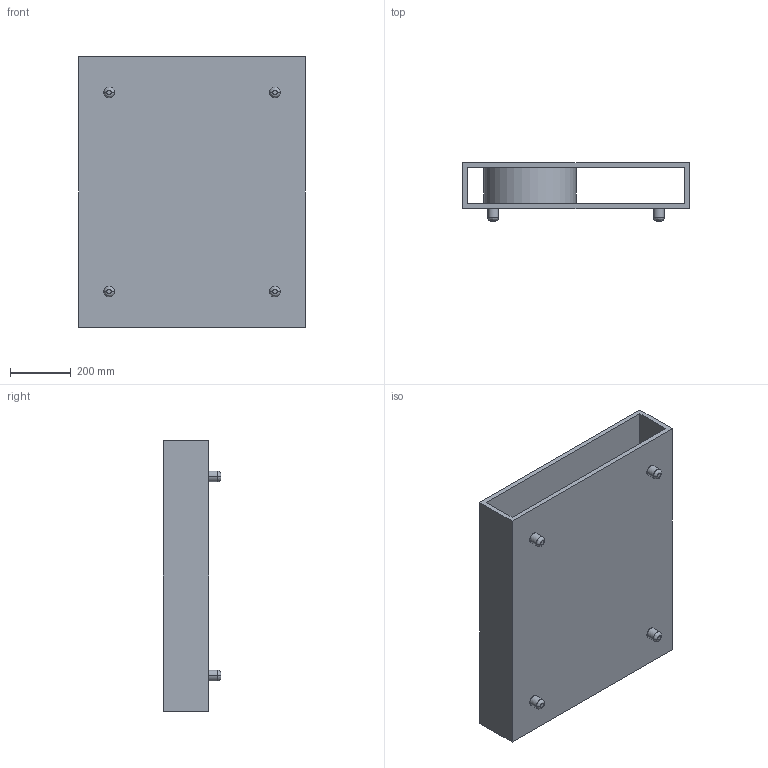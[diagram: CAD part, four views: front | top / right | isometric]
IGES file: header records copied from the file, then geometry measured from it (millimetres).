
Start section: SolidWorks IGES file using analytic representation for surfaces
Global section: file name: \\Logicserver\datos\01-VICCARBE\PRODUCTOS\53-SISTEMA\04-MODELADOS (PLANOS)\WEB\viccarbe-sistema-3D\Modulos\Mesa contenedor suelo.IGS; native system: SolidWorks 2013; preprocessor: SolidWorks 2013; author: bdisenyo; date: 170120.123506; units: millimetre
Bounding box: 745 x 190 x 890 mm (x, y, z)
Surface area: 3243353.3 mm2 (no closed solid volume)
Topology: 0 solids, 0 shells, 38 faces, 744 edges, 744 vertices
Faces by surface type: bspline 24, revolution 14
